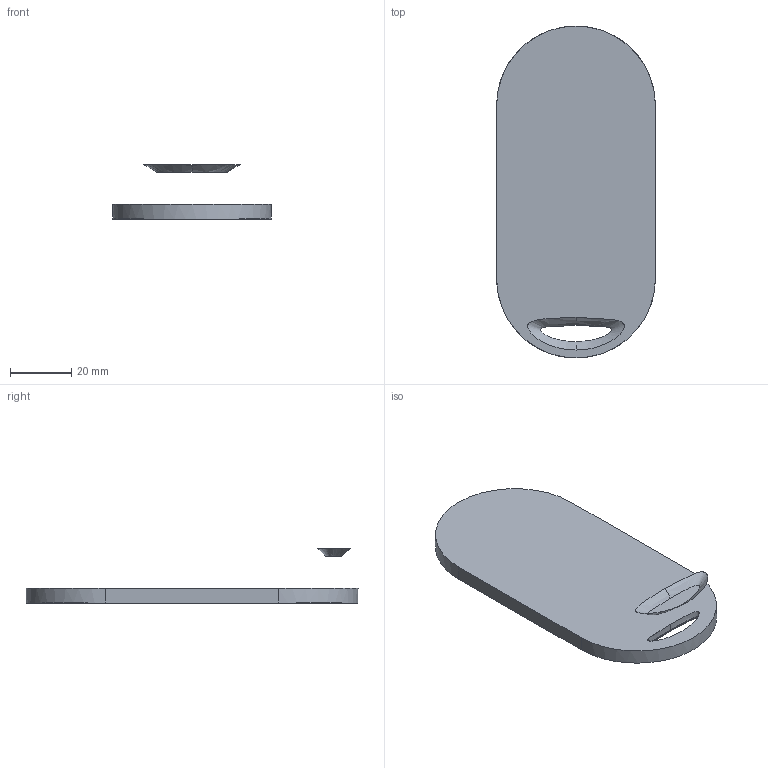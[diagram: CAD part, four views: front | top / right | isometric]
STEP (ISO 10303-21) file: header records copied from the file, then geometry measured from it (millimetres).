
FILE_DESCRIPTION((''),'2;1');
FILE_NAME('ID-GTC-REAR-PRE_PRT','2008-06-30T',('GRA'),(''),'PRO/ENGINEER BY PARAMETRIC TECHNOLOGY CORPORATION, 2006170','PRO/ENGINEER BY PARAMETRIC TECHNOLOGY CORPORATION, 2006170','');
FILE_SCHEMA(('CONFIG_CONTROL_DESIGN'));
Length unit declared in the file: millimetre
Products named in the file (1): ID-GTC-REAR-PRE_PRT
Bounding box: 52 x 108.7 x 18 mm (x, y, z)
Volume: 24687.7 mm3; surface area: 11700.1 mm2
Topology: 1 solids, 2 shells, 20 faces, 44 edges, 26 vertices
Faces by surface type: bspline 10, plane 4, extrusion 4, cylinder 2
Entity records: 2056 total; most frequent: CARTESIAN_POINT 1651, ORIENTED_EDGE 84, EDGE_CURVE 44, DIRECTION 42, B_SPLINE_CURVE_WITH_KNOTS 30, VERTEX_POINT 26, EDGE_LOOP 22, FACE_OUTER_BOUND 20
